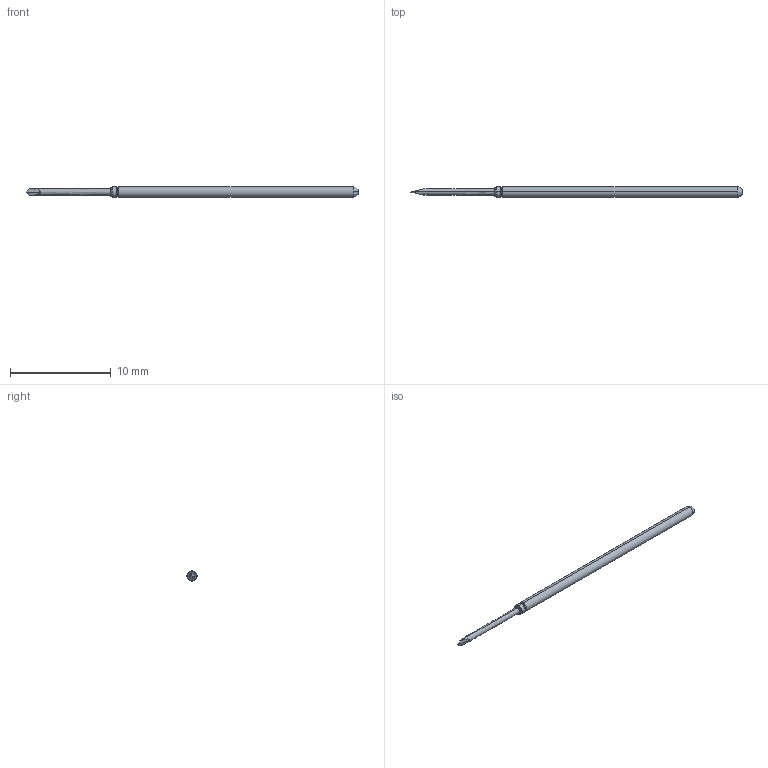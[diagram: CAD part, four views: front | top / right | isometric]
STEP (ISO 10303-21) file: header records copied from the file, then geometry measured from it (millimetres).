
FILE_DESCRIPTION (( 'STEP AP214' ), '1' );
FILE_NAME ('LF-LPA2I.STEP', '2023-06-05T08:34:10', ( '' ), ( '' ), 'SwSTEP 2.0', 'SolidWorks 2022', '' );
FILE_SCHEMA (( 'AUTOMOTIVE_DESIGN' ));
Length unit declared in the file: inch
Products named in the file (1): LF-LPA2I
Bounding box: 33.02 x 1.02 x 1.02 mm (x, y, z)
Volume: 22 mm3; surface area: 95.2 mm2
Topology: 2 solids, 2 shells, 23 faces, 44 edges, 25 vertices
Faces by surface type: bspline 16, plane 7
Entity records: 797 total; most frequent: CARTESIAN_POINT 379, ORIENTED_EDGE 88, DIRECTION 56, EDGE_CURVE 44, AXIS2_PLACEMENT_3D 26, VERTEX_POINT 25, EDGE_LOOP 23, FACE_OUTER_BOUND 23
